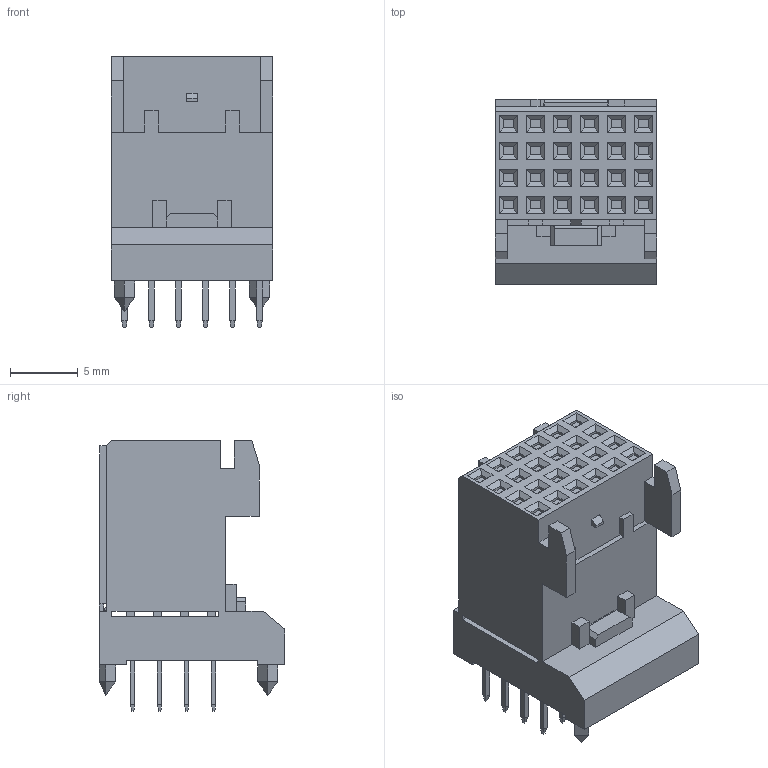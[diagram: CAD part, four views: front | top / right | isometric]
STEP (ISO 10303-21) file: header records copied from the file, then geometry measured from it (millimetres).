
FILE_DESCRIPTION (( 'STEP AP214' ), '1' );
FILE_NAME ('9111-46241C10DHU.STEP', '2023-12-18T05:09:39', ( '' ), ( '' ), 'SwSTEP 2.0', 'SolidWorks 2011', '' );
FILE_SCHEMA (( 'AUTOMOTIVE_DESIGN' ));
Length unit declared in the file: millimetre
Products named in the file (1): 9111-46241C10DHU
Bounding box: 11.95 x 13.75 x 20.05 mm (x, y, z)
Volume: 1781.2 mm3; surface area: 1633.3 mm2
Topology: 1 solids, 1 shells, 690 faces, 1714 edges, 1070 vertices
Faces by surface type: plane 660, cylinder 30
Entity records: 27284 total; most frequent: CARTESIAN_POINT 3484, ORIENTED_EDGE 3428, DIRECTION 3151, EDGE_CURVE 1714, VECTOR 1653, LINE 1653, VERTEX_POINT 1070, EDGE_LOOP 790
